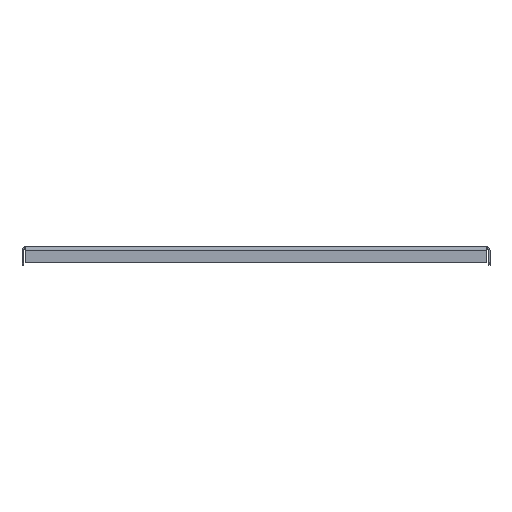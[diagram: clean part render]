
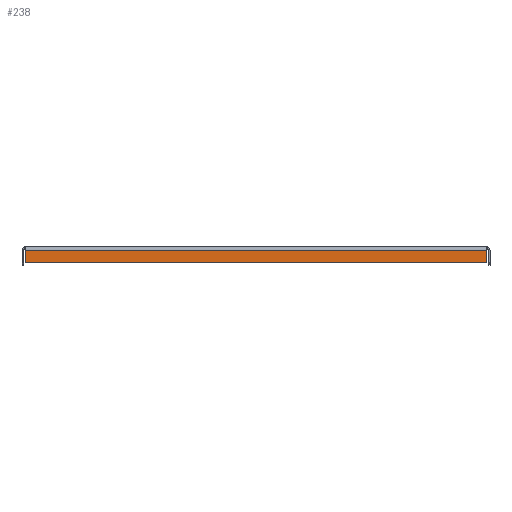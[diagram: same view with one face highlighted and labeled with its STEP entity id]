
A CAD part, front view. The second image highlights one B-rep face of the part: STEP entity #238.
In plain terms, the highlighted planar face has unit normal (0, -1, 0).
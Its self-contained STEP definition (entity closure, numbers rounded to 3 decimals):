
#238=ADVANCED_FACE('',(#2724),#2726,.T.);
#2724=FACE_BOUND('',#2725,.T.);
#2725=EDGE_LOOP('',(#4469,#4470,#4471,#4472));
#2726=PLANE('',#2727);
#2727=AXIS2_PLACEMENT_3D('',#2728,#2729,#2730);
#2728=CARTESIAN_POINT('',(0.,-223.5,0.));
#2729=DIRECTION('',(0.,-1.,0.));
#2730=DIRECTION('',(0.,0.,-1.));
#4469=ORIENTED_EDGE('',*,*,#5507,.F.);
#4470=ORIENTED_EDGE('',*,*,#5501,.T.);
#4471=ORIENTED_EDGE('',*,*,#5503,.F.);
#4472=ORIENTED_EDGE('',*,*,#5509,.F.);
#5501=EDGE_CURVE('',#6696,#6703,#6707,.T.);
#5503=EDGE_CURVE('',#6709,#6703,#6710,.T.);
#5507=EDGE_CURVE('',#6696,#6716,#6717,.T.);
#5509=EDGE_CURVE('',#6716,#6709,#6719,.T.);
#6696=VERTEX_POINT('',#9330);
#6703=VERTEX_POINT('',#9350);
#6707=LINE('',#9361,#9362);
#6709=VERTEX_POINT('',#9367);
#6710=LINE('',#9368,#9369);
#6716=VERTEX_POINT('',#9382);
#6717=LINE('',#9383,#9384);
#6719=LINE('',#9389,#9390);
#9330=CARTESIAN_POINT('',(239.1,-223.5,-3.4));
#9350=CARTESIAN_POINT('',(-239.1,-223.5,-3.4));
#9361=CARTESIAN_POINT('',(239.1,-223.5,-3.4));
#9362=VECTOR('',#9363,1.);
#9363=DIRECTION('',(-1.,0.,0.));
#9367=CARTESIAN_POINT('',(-239.1,-223.5,-16.4));
#9368=CARTESIAN_POINT('',(-239.1,-223.5,-16.4));
#9369=VECTOR('',#9370,1.);
#9370=DIRECTION('',(0.,0.,1.));
#9382=CARTESIAN_POINT('',(239.1,-223.5,-16.4));
#9383=CARTESIAN_POINT('',(239.1,-223.5,-3.4));
#9384=VECTOR('',#9385,1.);
#9385=DIRECTION('',(0.,0.,-1.));
#9389=CARTESIAN_POINT('',(239.1,-223.5,-16.4));
#9390=VECTOR('',#9391,1.);
#9391=DIRECTION('',(-1.,0.,0.));
